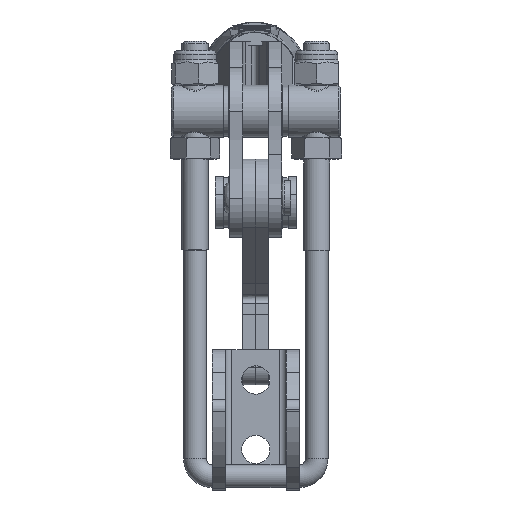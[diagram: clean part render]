
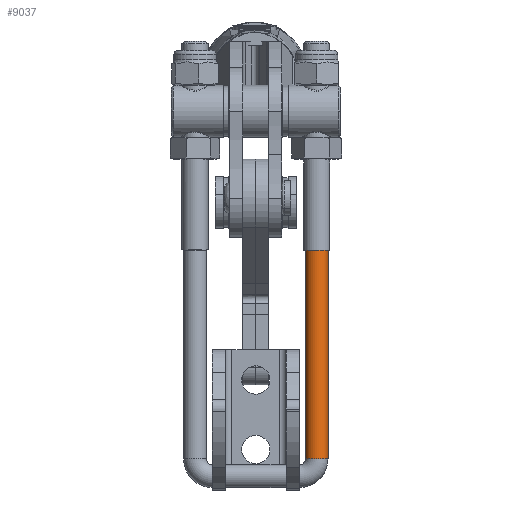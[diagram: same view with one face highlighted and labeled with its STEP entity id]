
A CAD part, left-side view. The second image highlights one B-rep face of the part: STEP entity #9037.
In plain terms, the highlighted cylindrical face has radius 2.6 mm (diameter 5.2 mm), a partial arc.
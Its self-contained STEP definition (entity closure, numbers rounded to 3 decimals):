
#483 = LINE ( 'NONE', #17606, #25558 ) ;
#898 = CIRCLE ( 'NONE', #30343, 2.6 ) ;
#1895 = VERTEX_POINT ( 'NONE', #3229 ) ;
#1936 = VERTEX_POINT ( 'NONE', #30718 ) ;
#3229 = CARTESIAN_POINT ( 'NONE',  ( 52., 0., -11.4 ) ) ;
#3748 = VERTEX_POINT ( 'NONE', #30147 ) ;
#4293 = DIRECTION ( 'NONE',  ( 0., 0., -1. ) ) ;
#5512 = ORIENTED_EDGE ( 'NONE', *, *, #27974, .T. ) ;
#6089 = DIRECTION ( 'NONE',  ( 0., 0., -1. ) ) ;
#7632 = DIRECTION ( 'NONE',  ( 1., 0., 0. ) ) ;
#8394 = FACE_OUTER_BOUND ( 'NONE', #17939, .T. ) ;
#8751 = DIRECTION ( 'NONE',  ( -1., 0., 0. ) ) ;
#9037 = ADVANCED_FACE ( 'NONE', ( #8394 ), #13316, .T. ) ;
#13199 = CARTESIAN_POINT ( 'NONE',  ( 4., 0., -11.4 ) ) ;
#13316 = CYLINDRICAL_SURFACE ( 'NONE', #28041, 2.6 ) ;
#14071 = AXIS2_PLACEMENT_3D ( 'NONE', #15348, #7632, #25412 ) ;
#14597 = CIRCLE ( 'NONE', #14071, 2.6 ) ;
#15348 = CARTESIAN_POINT ( 'NONE',  ( 4., 0., -14. ) ) ;
#16097 = ORIENTED_EDGE ( 'NONE', *, *, #25613, .T. ) ;
#17606 = CARTESIAN_POINT ( 'NONE',  ( 4., 0., -16.6 ) ) ;
#17939 = EDGE_LOOP ( 'NONE', ( #20999, #5512, #22290, #16097 ) ) ;
#18716 = EDGE_CURVE ( 'NONE', #3748, #1895, #23596, .T. ) ;
#20999 = ORIENTED_EDGE ( 'NONE', *, *, #18716, .F. ) ;
#22290 = ORIENTED_EDGE ( 'NONE', *, *, #24183, .T. ) ;
#23104 = DIRECTION ( 'NONE',  ( 1., 0., 0. ) ) ;
#23596 = LINE ( 'NONE', #13199, #25056 ) ;
#24183 = EDGE_CURVE ( 'NONE', #30565, #1936, #483, .T. ) ;
#25056 = VECTOR ( 'NONE', #23104, 1000. ) ;
#25412 = DIRECTION ( 'NONE',  ( 0., 0., -1. ) ) ;
#25558 = VECTOR ( 'NONE', #25686, 1000. ) ;
#25613 = EDGE_CURVE ( 'NONE', #1936, #1895, #898, .T. ) ;
#25686 = DIRECTION ( 'NONE',  ( 1., 0., 0. ) ) ;
#26015 = CARTESIAN_POINT ( 'NONE',  ( 4., 0., -14. ) ) ;
#27974 = EDGE_CURVE ( 'NONE', #3748, #30565, #14597, .T. ) ;
#28041 = AXIS2_PLACEMENT_3D ( 'NONE', #26015, #28652, #6089 ) ;
#28652 = DIRECTION ( 'NONE',  ( 1., 0., 0. ) ) ;
#29157 = CARTESIAN_POINT ( 'NONE',  ( 52., 0., -14. ) ) ;
#30147 = CARTESIAN_POINT ( 'NONE',  ( 4., 0., -11.4 ) ) ;
#30343 = AXIS2_PLACEMENT_3D ( 'NONE', #29157, #8751, #4293 ) ;
#30565 = VERTEX_POINT ( 'NONE', #31068 ) ;
#30718 = CARTESIAN_POINT ( 'NONE',  ( 52., 0., -16.6 ) ) ;
#31068 = CARTESIAN_POINT ( 'NONE',  ( 4., 0., -16.6 ) ) ;
